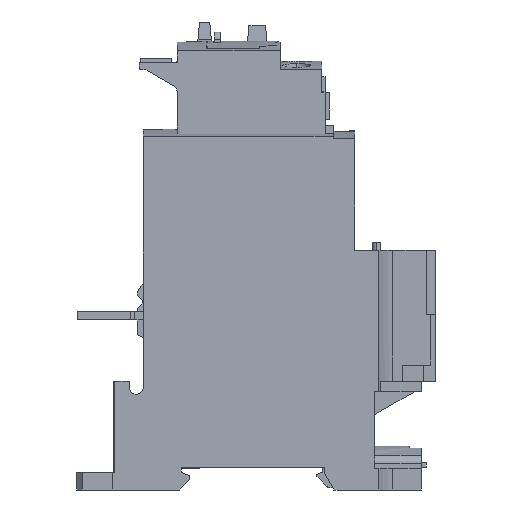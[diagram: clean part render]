
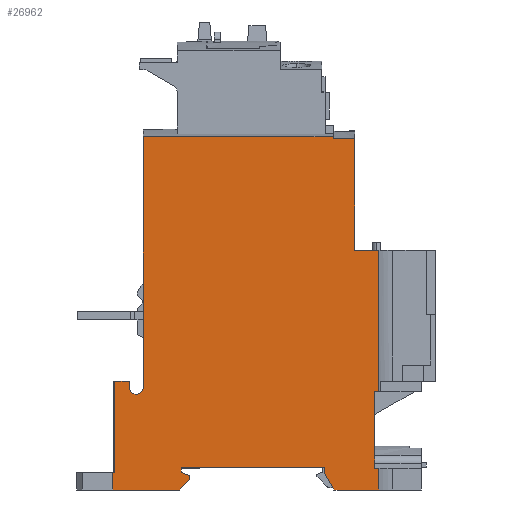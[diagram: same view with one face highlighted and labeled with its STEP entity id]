
A CAD part, left-side view. The second image highlights one B-rep face of the part: STEP entity #26962.
In plain terms, the highlighted planar face has unit normal (-1, 0, 0).
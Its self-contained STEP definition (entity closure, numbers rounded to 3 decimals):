
#1839=DIRECTION('',(0.,0.,1.));
#1840=VECTOR('',#1839,0.52);
#1841=CARTESIAN_POINT('',(0.6,25.3,86.91));
#1842=LINE('',#1841,#1840);
#1854=DIRECTION('',(0.,1.,0.));
#1855=VECTOR('',#1854,1.038);
#1856=CARTESIAN_POINT('',(0.6,13.962,24.42));
#1857=LINE('',#1856,#1855);
#1861=DIRECTION('',(0.,0.,1.));
#1862=VECTOR('',#1861,5.42);
#1863=CARTESIAN_POINT('',(0.6,13.962,0.));
#1864=LINE('',#1863,#1862);
#1868=DIRECTION('',(0.,1.,0.));
#1869=VECTOR('',#1868,16.35);
#1870=CARTESIAN_POINT('',(0.6,63.4,0.));
#1871=LINE('',#1870,#1869);
#1875=DIRECTION('',(0.,0.,1.));
#1876=VECTOR('',#1875,34.9);
#1877=CARTESIAN_POINT('',(0.6,13.962,24.42));
#1878=LINE('',#1877,#1876);
#2053=DIRECTION('',(0.,0.,1.));
#2054=VECTOR('',#2053,19.);
#2055=CARTESIAN_POINT('',(0.6,15.,5.42));
#2056=LINE('',#2055,#2054);
#2554=DIRECTION('',(0.,1.,0.));
#2555=VECTOR('',#2554,11.129);
#2556=CARTESIAN_POINT('',(0.6,13.962,0.));
#2557=LINE('',#2556,#2555);
#3377=DIRECTION('',(0.,1.,0.));
#3378=VECTOR('',#3377,0.41);
#3379=CARTESIAN_POINT('',(0.6,79.34,4.3));
#3380=LINE('',#3379,#3378);
#3507=DIRECTION('',(0.,0.,-1.));
#3508=VECTOR('',#3507,4.3);
#3509=CARTESIAN_POINT('',(0.6,79.75,4.3));
#3510=LINE('',#3509,#3508);
#3654=DIRECTION('',(0.,-1.,0.));
#3655=VECTOR('',#3654,35.5);
#3656=CARTESIAN_POINT('',(0.6,62.9,5.5));
#3657=LINE('',#3656,#3655);
#5424=DIRECTION('',(0.,0.,-1.));
#5425=VECTOR('',#5424,62.07);
#5426=CARTESIAN_POINT('',(0.6,72.3,87.43));
#5427=LINE('',#5426,#5425);
#5700=DIRECTION('',(0.,-1.,0.));
#5701=VECTOR('',#5700,3.64);
#5702=CARTESIAN_POINT('',(0.6,79.34,26.956));
#5703=LINE('',#5702,#5701);
#6644=DIRECTION('',(0.,0.,1.));
#6645=VECTOR('',#6644,22.656);
#6646=CARTESIAN_POINT('',(0.6,79.34,4.3));
#6647=LINE('',#6646,#6645);
#6711=DIRECTION('',(0.,0.,1.));
#6712=VECTOR('',#6711,1.596);
#6713=CARTESIAN_POINT('',(0.6,75.7,25.36));
#6714=LINE('',#6713,#6712);
#6739=CARTESIAN_POINT('',(0.6,74.,25.36));
#6740=DIRECTION('',(1.,0.,0.));
#6741=DIRECTION('',(0.,-1.,0.));
#6742=AXIS2_PLACEMENT_3D('',#6739,#6740,#6741);
#6905=DIRECTION('',(0.,0.,1.));
#6906=VECTOR('',#6905,1.1);
#6907=CARTESIAN_POINT('',(0.6,62.9,4.4));
#6908=LINE('',#6907,#6906);
#6961=DIRECTION('',(0.,0.912,0.41));
#6962=VECTOR('',#6961,2.193);
#6963=CARTESIAN_POINT('',(0.6,60.9,3.5));
#6964=LINE('',#6963,#6962);
#6989=DIRECTION('',(0.,0.,1.));
#6990=VECTOR('',#6989,1.);
#6991=CARTESIAN_POINT('',(0.6,60.9,2.5));
#6992=LINE('',#6991,#6990);
#7031=DIRECTION('',(0.,-0.707,0.707));
#7032=VECTOR('',#7031,3.536);
#7033=CARTESIAN_POINT('',(0.6,63.4,0.));
#7034=LINE('',#7033,#7032);
#7467=DIRECTION('',(0.,1.,0.));
#7468=VECTOR('',#7467,47.);
#7469=CARTESIAN_POINT('',(0.6,25.3,87.43));
#7470=LINE('',#7469,#7468);
#12556=DIRECTION('',(0.,-1.,0.));
#12557=VECTOR('',#12556,5.3);
#12558=CARTESIAN_POINT('',(0.6,25.3,86.91));
#12559=LINE('',#12558,#12557);
#12734=DIRECTION('',(0.,0.,1.));
#12735=VECTOR('',#12734,27.59);
#12736=CARTESIAN_POINT('',(0.6,20.,59.32));
#12737=LINE('',#12736,#12735);
#13522=DIRECTION('',(0.,-1.,0.));
#13523=VECTOR('',#13522,6.038);
#13524=CARTESIAN_POINT('',(0.6,20.,59.32));
#13525=LINE('',#13524,#13523);
#13924=DIRECTION('',(0.,-1.,0.));
#13925=VECTOR('',#13924,1.038);
#13926=CARTESIAN_POINT('',(0.6,15.,5.42));
#13927=LINE('',#13926,#13925);
#15035=DIRECTION('',(0.,0.,-1.));
#15036=VECTOR('',#15035,1.5);
#15037=CARTESIAN_POINT('',(0.6,27.4,5.5));
#15038=LINE('',#15037,#15036);
#15077=DIRECTION('',(0.,-0.5,-0.866));
#15078=VECTOR('',#15077,4.619);
#15079=CARTESIAN_POINT('',(0.6,27.4,4.));
#15080=LINE('',#15079,#15078);
#24222=CARTESIAN_POINT('',(0.6,13.962,0.));
#24223=CARTESIAN_POINT('',(0.6,25.091,0.));
#24224=VERTEX_POINT('',#24222);
#24225=VERTEX_POINT('',#24223);
#24246=CARTESIAN_POINT('',(0.6,79.34,4.3));
#24247=CARTESIAN_POINT('',(0.6,79.75,4.3));
#24248=VERTEX_POINT('',#24246);
#24249=VERTEX_POINT('',#24247);
#24254=CARTESIAN_POINT('',(0.6,79.34,26.956));
#24255=VERTEX_POINT('',#24254);
#24258=CARTESIAN_POINT('',(0.6,72.3,87.43));
#24259=CARTESIAN_POINT('',(0.6,72.3,25.36));
#24260=VERTEX_POINT('',#24258);
#24261=VERTEX_POINT('',#24259);
#24266=CARTESIAN_POINT('',(0.6,75.7,26.956));
#24267=VERTEX_POINT('',#24266);
#24270=CARTESIAN_POINT('',(0.6,25.3,87.43));
#24271=VERTEX_POINT('',#24270);
#24276=CARTESIAN_POINT('',(0.6,20.,59.32));
#24277=CARTESIAN_POINT('',(0.6,20.,86.91));
#24278=VERTEX_POINT('',#24276);
#24279=VERTEX_POINT('',#24277);
#24284=CARTESIAN_POINT('',(0.6,13.962,59.32));
#24285=VERTEX_POINT('',#24284);
#24288=CARTESIAN_POINT('',(0.6,63.4,0.));
#24289=CARTESIAN_POINT('',(0.6,60.9,2.5));
#24290=VERTEX_POINT('',#24288);
#24291=VERTEX_POINT('',#24289);
#24296=CARTESIAN_POINT('',(0.6,60.9,3.5));
#24297=VERTEX_POINT('',#24296);
#24300=CARTESIAN_POINT('',(0.6,62.9,4.4));
#24301=VERTEX_POINT('',#24300);
#24304=CARTESIAN_POINT('',(0.6,62.9,5.5));
#24305=VERTEX_POINT('',#24304);
#24308=CARTESIAN_POINT('',(0.6,27.4,5.5));
#24309=VERTEX_POINT('',#24308);
#24312=CARTESIAN_POINT('',(0.6,27.4,4.));
#24313=VERTEX_POINT('',#24312);
#24316=CARTESIAN_POINT('',(0.6,15.,5.42));
#24317=CARTESIAN_POINT('',(0.6,13.962,5.42));
#24318=VERTEX_POINT('',#24316);
#24319=VERTEX_POINT('',#24317);
#24324=CARTESIAN_POINT('',(0.6,79.75,0.));
#24325=VERTEX_POINT('',#24324);
#24328=CARTESIAN_POINT('',(0.6,75.7,25.36));
#24329=VERTEX_POINT('',#24328);
#24332=CARTESIAN_POINT('',(0.6,25.3,86.91));
#24333=VERTEX_POINT('',#24332);
#24350=CARTESIAN_POINT('',(0.6,13.962,24.42));
#24351=VERTEX_POINT('',#24350);
#24352=CARTESIAN_POINT('',(0.6,15.,24.42));
#24353=VERTEX_POINT('',#24352);
#26904=CARTESIAN_POINT('',(0.6,13.962,-31.63));
#26905=DIRECTION('',(1.,0.,0.));
#26906=DIRECTION('',(0.,1.,0.));
#26907=AXIS2_PLACEMENT_3D('',#26904,#26905,#26906);
#26908=PLANE('',#26907);
#26910=ORIENTED_EDGE('',*,*,#26909,.T.);
#26912=ORIENTED_EDGE('',*,*,#26911,.F.);
#26914=ORIENTED_EDGE('',*,*,#26913,.T.);
#26916=ORIENTED_EDGE('',*,*,#26915,.F.);
#26918=ORIENTED_EDGE('',*,*,#26917,.T.);
#26920=ORIENTED_EDGE('',*,*,#26919,.F.);
#26922=ORIENTED_EDGE('',*,*,#26921,.F.);
#26924=ORIENTED_EDGE('',*,*,#26923,.F.);
#26926=ORIENTED_EDGE('',*,*,#26925,.F.);
#26928=ORIENTED_EDGE('',*,*,#26927,.F.);
#26930=ORIENTED_EDGE('',*,*,#26929,.F.);
#26932=ORIENTED_EDGE('',*,*,#26931,.F.);
#26934=ORIENTED_EDGE('',*,*,#26933,.T.);
#26936=ORIENTED_EDGE('',*,*,#26935,.F.);
#26938=ORIENTED_EDGE('',*,*,#26937,.F.);
#26940=ORIENTED_EDGE('',*,*,#26939,.T.);
#26942=ORIENTED_EDGE('',*,*,#26941,.T.);
#26944=ORIENTED_EDGE('',*,*,#26943,.F.);
#26946=ORIENTED_EDGE('',*,*,#26945,.F.);
#26948=ORIENTED_EDGE('',*,*,#26947,.F.);
#26950=ORIENTED_EDGE('',*,*,#26949,.F.);
#26951=ORIENTED_EDGE('',*,*,#26884,.F.);
#26953=ORIENTED_EDGE('',*,*,#26952,.T.);
#26955=ORIENTED_EDGE('',*,*,#26954,.F.);
#26957=ORIENTED_EDGE('',*,*,#26956,.T.);
#26959=ORIENTED_EDGE('',*,*,#26958,.F.);
#26960=EDGE_LOOP('',(#26910,#26912,#26914,#26916,#26918,#26920,#26922,#26924,
#26926,#26928,#26930,#26932,#26934,#26936,#26938,#26940,#26942,#26944,#26946,
#26948,#26950,#26951,#26953,#26955,#26957,#26959));
#26961=FACE_OUTER_BOUND('',#26960,.F.);
#6743=CIRCLE('',#6742,1.7);
#26884=EDGE_CURVE('',#24333,#24271,#1842,.T.);
#26909=EDGE_CURVE('',#24351,#24353,#1857,.T.);
#26911=EDGE_CURVE('',#24318,#24353,#2056,.T.);
#26913=EDGE_CURVE('',#24318,#24319,#13927,.T.);
#26915=EDGE_CURVE('',#24224,#24319,#1864,.T.);
#26917=EDGE_CURVE('',#24224,#24225,#2557,.T.);
#26919=EDGE_CURVE('',#24313,#24225,#15080,.T.);
#26921=EDGE_CURVE('',#24309,#24313,#15038,.T.);
#26923=EDGE_CURVE('',#24305,#24309,#3657,.T.);
#26925=EDGE_CURVE('',#24301,#24305,#6908,.T.);
#26927=EDGE_CURVE('',#24297,#24301,#6964,.T.);
#26929=EDGE_CURVE('',#24291,#24297,#6992,.T.);
#26931=EDGE_CURVE('',#24290,#24291,#7034,.T.);
#26933=EDGE_CURVE('',#24290,#24325,#1871,.T.);
#26935=EDGE_CURVE('',#24249,#24325,#3510,.T.);
#26937=EDGE_CURVE('',#24248,#24249,#3380,.T.);
#26939=EDGE_CURVE('',#24248,#24255,#6647,.T.);
#26941=EDGE_CURVE('',#24255,#24267,#5703,.T.);
#26943=EDGE_CURVE('',#24329,#24267,#6714,.T.);
#26945=EDGE_CURVE('',#24261,#24329,#6743,.T.);
#26947=EDGE_CURVE('',#24260,#24261,#5427,.T.);
#26949=EDGE_CURVE('',#24271,#24260,#7470,.T.);
#26952=EDGE_CURVE('',#24333,#24279,#12559,.T.);
#26954=EDGE_CURVE('',#24278,#24279,#12737,.T.);
#26956=EDGE_CURVE('',#24278,#24285,#13525,.T.);
#26958=EDGE_CURVE('',#24351,#24285,#1878,.T.);
#26962=ADVANCED_FACE('',(#26961),#26908,.F.);
